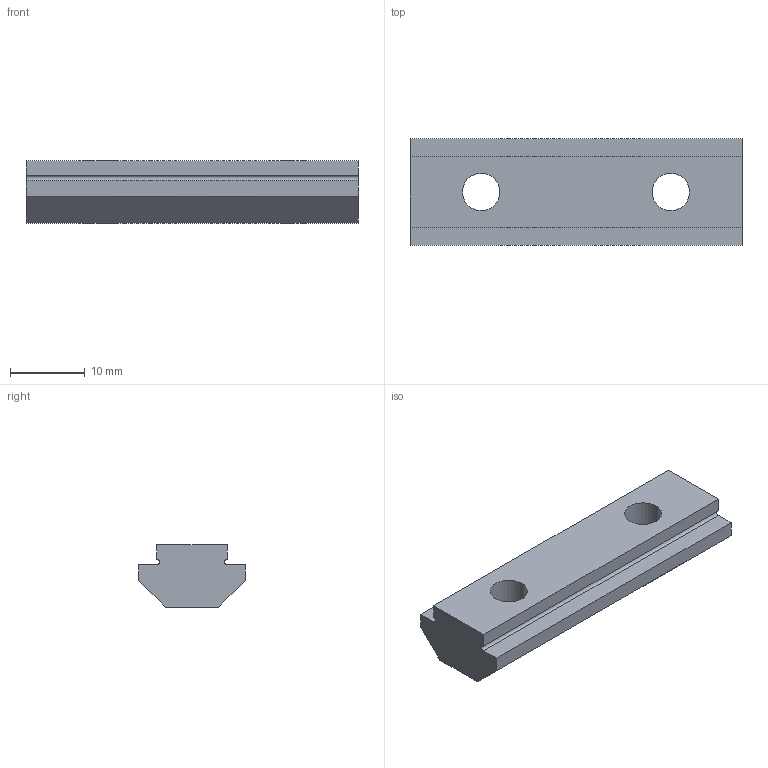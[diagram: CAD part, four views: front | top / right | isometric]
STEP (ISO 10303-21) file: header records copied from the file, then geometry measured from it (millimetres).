
FILE_DESCRIPTION((''),'2;1');
FILE_NAME('200830M','2023-02-28T',('jenni.wallner'),(''),'PRO/ENGINEER BY PARAMETRIC TECHNOLOGY CORPORATION, 2012420','PRO/ENGINEER BY PARAMETRIC TECHNOLOGY CORPORATION, 2012420','');
FILE_SCHEMA(('CONFIG_CONTROL_DESIGN'));
Length unit declared in the file: inch
Products named in the file (1): 200830M
Bounding box: 44.45 x 14.3 x 8.33 mm (x, y, z)
Volume: 3806 mm3; surface area: 2233.3 mm2
Topology: 1 solids, 1 shells, 18 faces, 48 edges, 32 vertices
Faces by surface type: plane 12, cylinder 6
Entity records: 612 total; most frequent: CARTESIAN_POINT 98, DIRECTION 96, ORIENTED_EDGE 96, EDGE_CURVE 48, VECTOR 36, LINE 36, VERTEX_POINT 32, AXIS2_PLACEMENT_3D 30
